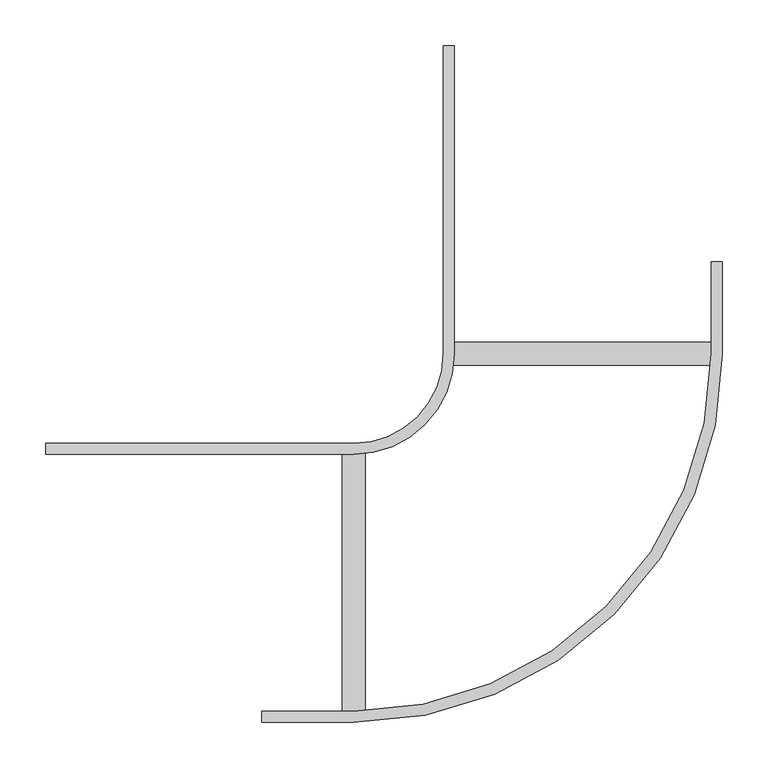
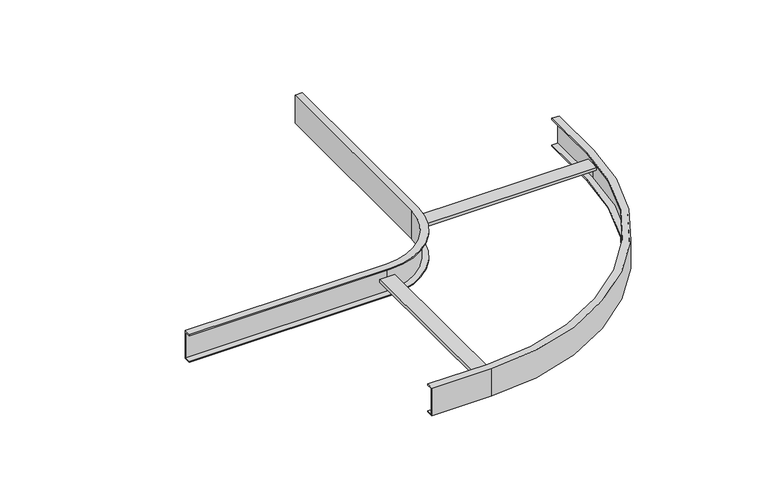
"""IFC4 building model written with IfcOpenShell, lengths in millimetres: cable carrier fitting geometry, BAKS_LD_CONN_Univarsal connector elbow_LLUS : LLUSP_H45."""

from ifc_helpers import new_model, si_unit, frame, origin, place, context, project, spatial, polyline, circle_curve, outline, extrude, source, transform, mapped, element, save
from ifc_brep_helpers import plane_surface, cylinder_surface, revolved_surface, advanced_brep


def cable_carrier_fitting_8d7dc52b(model_context):
    return source(origin(), model_context, "Body", "SolidModel", [
        extrude(outline(polyline([(-150.0, 237.5), (-150.0, 262.5), (150.0, 262.5), (150.0, 237.5), (-150.0, 237.5)])), frame((0.0, 0.0, -2.5), z_axis=(0.0, 0.0, 1.0), x_axis=(1.0, 0.0, 0.0)), (0.0, 0.0, 1.0), 5.0),
        extrude(outline(polyline([(-262.5, 150.0), (-237.5, 150.0), (-237.5, -150.0), (-262.5, -150.0), (-262.5, 150.0)])), frame((0.0, 0.0, -2.5), z_axis=(0.0, 0.0, 1.0), x_axis=(1.0, 0.0, 0.0)), (0.0, 0.0, 1.0), 5.0),
        advanced_brep(
        [(-140.0, 585.619449, 24.5), (-140.0, 585.619449, 22.5), (-150.0, 585.619449, 22.5), (-150.0, 585.619449, -22.5), (-140.0, 585.619449, -22.5), (-140.0, 585.619449, -24.5), (-152.0, 585.619449, -24.5), (-152.0, 585.619449, 24.5), (-140.0, 250.0, 24.5), (-140.0, 250.0, 22.5), (-250.0, 140.0, 22.5), (-585.619449, 140.0, 22.5), (-585.619449, 150.0, 22.5), (-250.0, 150.0, 22.5), (-150.0, 250.0, 22.5), (-150.0, 250.0, -22.5), (-250.0, 150.0, -22.5), (-585.619449, 150.0, -22.5), (-585.619449, 140.0, -22.5), (-250.0, 140.0, -22.5), (-140.0, 250.0, -22.5), (-140.0, 250.0, -24.5), (-250.0, 140.0, -24.5), (-585.619449, 140.0, -24.5), (-585.619449, 152.0, -24.5), (-250.0, 152.0, -24.5), (-152.0, 250.0, -24.5), (-152.0, 250.0, 24.5), (-250.0, 152.0, 24.5), (-585.619449, 152.0, 24.5), (-585.619449, 140.0, 24.5), (-250.0, 140.0, 24.5)],
        [
            (0, 1),
            (1, 2),
            (2, 3),
            (3, 4),
            (4, 5),
            (5, 6),
            (6, 7),
            (7, 0),
            (0, 8),
            (8, 9),
            (9, 1),
            (9, 10, circle_curve(frame((-250.0, 250.0, 22.5), z_axis=(0.0, 0.0, -1.0), x_axis=(1.0, 0.0, 0.0)), 110.0)),
            (10, 11),
            (11, 12),
            (12, 13),
            (13, 14, circle_curve(frame((-250.0, 250.0, 22.5), z_axis=(0.0, 0.0, 1.0), x_axis=(1.0, 0.0, 0.0)), 100.0)),
            (14, 2),
            (14, 15),
            (15, 3),
            (15, 16, circle_curve(frame((-250.0, 250.0, -22.5), z_axis=(0.0, 0.0, -1.0), x_axis=(1.0, 0.0, 0.0)), 100.0)),
            (16, 17),
            (17, 18),
            (18, 19),
            (19, 20, circle_curve(frame((-250.0, 250.0, -22.5), z_axis=(0.0, 0.0, 1.0), x_axis=(1.0, 0.0, 0.0)), 110.0)),
            (20, 4),
            (20, 21),
            (21, 5),
            (21, 22, circle_curve(frame((-250.0, 250.0, -24.5), z_axis=(0.0, 0.0, -1.0), x_axis=(1.0, 0.0, 0.0)), 110.0)),
            (22, 23),
            (23, 24),
            (24, 25),
            (25, 26, circle_curve(frame((-250.0, 250.0, -24.5), z_axis=(0.0, 0.0, 1.0), x_axis=(1.0, 0.0, 0.0)), 98.0)),
            (26, 6),
            (26, 27),
            (27, 7),
            (27, 28, circle_curve(frame((-250.0, 250.0, 24.5), z_axis=(0.0, 0.0, -1.0), x_axis=(1.0, 0.0, 0.0)), 98.0)),
            (28, 29),
            (29, 30),
            (30, 31),
            (31, 8, circle_curve(frame((-250.0, 250.0, 24.5), z_axis=(0.0, 0.0, 1.0), x_axis=(1.0, 0.0, 0.0)), 110.0)),
            (31, 10),
            (13, 16),
            (19, 22),
            (25, 28),
            (29, 24),
            (23, 18),
            (17, 12),
            (11, 30),
        ],
        [
            plane_surface(frame((-150.0, 585.619449, 0.0), z_axis=(0.0, 1.0, 0.0), x_axis=(0.0, 0.0, 1.0))),
            plane_surface(frame((-140.0, 585.619449, 24.5), z_axis=(1.0, 0.0, 0.0), x_axis=(0.0, -1.0, 0.0))),
            plane_surface(frame((-140.0, 585.619449, 22.5), z_axis=(0.0, 0.0, -1.0), x_axis=(0.0, -1.0, 0.0))),
            plane_surface(frame((-150.0, 585.619449, 22.5), z_axis=(1.0, 0.0, 0.0), x_axis=(0.0, -1.0, 0.0))),
            plane_surface(frame((-150.0, 585.619449, -22.5), z_axis=(0.0, 0.0, 1.0), x_axis=(0.0, -1.0, 0.0))),
            plane_surface(frame((-140.0, 585.619449, -22.5), z_axis=(1.0, 0.0, 0.0), x_axis=(0.0, -1.0, 0.0))),
            plane_surface(frame((-140.0, 585.619449, -24.5), z_axis=(0.0, 0.0, -1.0), x_axis=(0.0, -1.0, 0.0))),
            plane_surface(frame((-152.0, 585.619449, -24.5), z_axis=(-1.0, 0.0, 0.0), x_axis=(0.0, -1.0, 0.0))),
            plane_surface(frame((-152.0, 585.619449, 24.5), z_axis=(0.0, 0.0, 1.0), x_axis=(0.0, -1.0, 0.0))),
            cylinder_surface(frame((-250.0, 250.0, 0.0), z_axis=(0.0, 0.0, -1.0), x_axis=(1.0, 0.0, 0.0)), 110.0),
            cylinder_surface(frame((-250.0, 250.0, 0.0), z_axis=(0.0, 0.0, -1.0), x_axis=(1.0, 0.0, 0.0)), 100.0),
            revolved_surface(polyline([(-152.0, 250.0, -24.5), (-152.0, 250.0, 24.5)]), (-250.0, 250.0, 0.0), (0.0, 0.0, -1.0)),
            plane_surface(frame((-585.619449, 150.0, 0.0), z_axis=(-1.0, 0.0, 0.0), x_axis=(0.0, 0.0, 1.0))),
            plane_surface(frame((-250.0, 140.0, 24.5), z_axis=(0.0, -1.0, 0.0), x_axis=(-1.0, 0.0, 0.0))),
            plane_surface(frame((-250.0, 150.0, 22.5), z_axis=(0.0, -1.0, 0.0), x_axis=(-1.0, 0.0, 0.0))),
            plane_surface(frame((-250.0, 140.0, -22.5), z_axis=(0.0, -1.0, 0.0), x_axis=(-1.0, 0.0, 0.0))),
            plane_surface(frame((-250.0, 152.0, -24.5), z_axis=(0.0, 1.0, 0.0), x_axis=(-1.0, 0.0, 0.0))),
        ],
        [
            (0, [[1, 2, 3, 4, 5, 6, 7, 8]]),
            (1, [[-1, 9, 10, 11]]),
            (2, [[-2, -11, 12, 13, 14, 15, 16, 17]]),
            (3, [[-3, -17, 18, 19]]),
            (4, [[-4, -19, 20, 21, 22, 23, 24, 25]]),
            (5, [[-5, -25, 26, 27]]),
            (6, [[-6, -27, 28, 29, 30, 31, 32, 33]]),
            (7, [[-7, -33, 34, 35]]),
            (8, [[-8, -35, 36, 37, 38, 39, 40, -9]]),
            (9, [[-12, -10, -40, 41]]),
            (10, [[-20, -18, -16, 42]]),
            (9, [[-28, -26, -24, 43]]),
            (11, [[-36, -34, -32, 44]]),
            (12, [[-38, 45, -30, 46, -22, 47, -14, 48]]),
            (13, [[-41, -39, -48, -13]]),
            (14, [[-42, -15, -47, -21]]),
            (15, [[-43, -23, -46, -29]]),
            (16, [[-44, -31, -45, -37]]),
        ],
    ),
        advanced_brep(
        [(140.0, 350.0, -24.5), (140.0, 350.0, -22.5), (150.0, 350.0, -22.5), (150.0, 350.0, 22.5), (140.0, 350.0, 22.5), (140.0, 350.0, 24.5), (152.0, 350.0, 24.5), (152.0, 350.0, -24.5), (140.0, 250.0, -24.5), (140.0, 250.0, -22.5), (-250.0, -140.0, -22.5), (-350.0, -140.0, -22.5), (-350.0, -150.0, -22.5), (-250.0, -150.0, -22.5), (150.0, 250.0, -22.5), (150.0, 250.0, 22.5), (-250.0, -150.0, 22.5), (-350.0, -150.0, 22.5), (-350.0, -140.0, 22.5), (-250.0, -140.0, 22.5), (140.0, 250.0, 22.5), (140.0, 250.0, 24.5), (-250.0, -140.0, 24.5), (-350.0, -140.0, 24.5), (-350.0, -152.0, 24.5), (-250.0, -152.0, 24.5), (152.0, 250.0, 24.5), (152.0, 250.0, -24.5), (-250.0, -152.0, -24.5), (-350.0, -152.0, -24.5), (-350.0, -140.0, -24.5), (-250.0, -140.0, -24.5)],
        [
            (0, 1),
            (1, 2),
            (2, 3),
            (3, 4),
            (4, 5),
            (5, 6),
            (6, 7),
            (7, 0),
            (0, 8),
            (8, 9),
            (9, 1),
            (9, 10, circle_curve(frame((-250.0, 250.0, -22.5), z_axis=(0.0, 0.0, -1.0), x_axis=(1.0, 0.0, 0.0)), 390.0)),
            (10, 11),
            (11, 12),
            (12, 13),
            (13, 14, circle_curve(frame((-250.0, 250.0, -22.5), z_axis=(0.0, 0.0, 1.0), x_axis=(1.0, 0.0, 0.0)), 400.0)),
            (14, 2),
            (14, 15),
            (15, 3),
            (15, 16, circle_curve(frame((-250.0, 250.0, 22.5), z_axis=(0.0, 0.0, -1.0), x_axis=(1.0, 0.0, 0.0)), 400.0)),
            (16, 17),
            (17, 18),
            (18, 19),
            (19, 20, circle_curve(frame((-250.0, 250.0, 22.5), z_axis=(0.0, 0.0, 1.0), x_axis=(1.0, 0.0, 0.0)), 390.0)),
            (20, 4),
            (20, 21),
            (21, 5),
            (21, 22, circle_curve(frame((-250.0, 250.0, 24.5), z_axis=(0.0, 0.0, -1.0), x_axis=(1.0, 0.0, 0.0)), 390.0)),
            (22, 23),
            (23, 24),
            (24, 25),
            (25, 26, circle_curve(frame((-250.0, 250.0, 24.5), z_axis=(0.0, 0.0, 1.0), x_axis=(1.0, 0.0, 0.0)), 402.0)),
            (26, 6),
            (26, 27),
            (27, 7),
            (27, 28, circle_curve(frame((-250.0, 250.0, -24.5), z_axis=(0.0, 0.0, -1.0), x_axis=(1.0, 0.0, 0.0)), 402.0)),
            (28, 29),
            (29, 30),
            (30, 31),
            (31, 8, circle_curve(frame((-250.0, 250.0, -24.5), z_axis=(0.0, 0.0, 1.0), x_axis=(1.0, 0.0, 0.0)), 390.0)),
            (31, 10),
            (13, 16),
            (19, 22),
            (25, 28),
            (29, 24),
            (23, 18),
            (17, 12),
            (11, 30),
        ],
        [
            plane_surface(frame((150.0, 350.0, 0.0), z_axis=(0.0, 1.0, 0.0), x_axis=(0.0, 0.0, 1.0))),
            plane_surface(frame((140.0, 350.0, -24.5), z_axis=(-1.0, 0.0, 0.0), x_axis=(0.0, -1.0, 0.0))),
            plane_surface(frame((140.0, 350.0, -22.5), z_axis=(0.0, 0.0, 1.0), x_axis=(0.0, -1.0, 0.0))),
            plane_surface(frame((150.0, 350.0, -22.5), z_axis=(-1.0, 0.0, 0.0), x_axis=(0.0, -1.0, 0.0))),
            plane_surface(frame((150.0, 350.0, 22.5), z_axis=(0.0, 0.0, -1.0), x_axis=(0.0, -1.0, 0.0))),
            plane_surface(frame((140.0, 350.0, 22.5), z_axis=(-1.0, 0.0, 0.0), x_axis=(0.0, -1.0, 0.0))),
            plane_surface(frame((140.0, 350.0, 24.5), z_axis=(0.0, 0.0, 1.0), x_axis=(0.0, -1.0, 0.0))),
            plane_surface(frame((152.0, 350.0, 24.5), z_axis=(1.0, 0.0, 0.0), x_axis=(0.0, -1.0, 0.0))),
            plane_surface(frame((152.0, 350.0, -24.5), z_axis=(0.0, 0.0, -1.0), x_axis=(0.0, -1.0, 0.0))),
            revolved_surface(polyline([(140.0, 250.0, -24.5), (140.0, 250.0, -22.5)]), (-250.0, 250.0, 0.0), (0.0, 0.0, -1.0)),
            revolved_surface(polyline([(150.0, 250.0, -22.5), (150.0, 250.0, 22.5)]), (-250.0, 250.0, 0.0), (0.0, 0.0, -1.0)),
            revolved_surface(polyline([(140.0, 250.0, 22.5), (140.0, 250.0, 24.5)]), (-250.0, 250.0, 0.0), (0.0, 0.0, -1.0)),
            cylinder_surface(frame((-250.0, 250.0, 0.0), z_axis=(0.0, 0.0, -1.0), x_axis=(1.0, 0.0, 0.0)), 402.0),
            plane_surface(frame((-350.0, -150.0, 0.0), z_axis=(-1.0, 0.0, 0.0), x_axis=(0.0, 0.0, 1.0))),
            plane_surface(frame((-250.0, -140.0, -24.5), z_axis=(0.0, 1.0, 0.0), x_axis=(-1.0, 0.0, 0.0))),
            plane_surface(frame((-250.0, -150.0, -22.5), z_axis=(0.0, 1.0, 0.0), x_axis=(-1.0, 0.0, 0.0))),
            plane_surface(frame((-250.0, -140.0, 22.5), z_axis=(0.0, 1.0, 0.0), x_axis=(-1.0, 0.0, 0.0))),
            plane_surface(frame((-250.0, -152.0, 24.5), z_axis=(0.0, -1.0, 0.0), x_axis=(-1.0, 0.0, 0.0))),
        ],
        [
            (0, [[1, 2, 3, 4, 5, 6, 7, 8]]),
            (1, [[-1, 9, 10, 11]]),
            (2, [[-2, -11, 12, 13, 14, 15, 16, 17]]),
            (3, [[-3, -17, 18, 19]]),
            (4, [[-4, -19, 20, 21, 22, 23, 24, 25]]),
            (5, [[-5, -25, 26, 27]]),
            (6, [[-6, -27, 28, 29, 30, 31, 32, 33]]),
            (7, [[-7, -33, 34, 35]]),
            (8, [[-8, -35, 36, 37, 38, 39, 40, -9]]),
            (9, [[-12, -10, -40, 41]]),
            (10, [[-20, -18, -16, 42]]),
            (11, [[-28, -26, -24, 43]]),
            (12, [[-36, -34, -32, 44]]),
            (13, [[-38, 45, -30, 46, -22, 47, -14, 48]]),
            (14, [[-41, -39, -48, -13]]),
            (15, [[-42, -15, -47, -21]]),
            (16, [[-43, -23, -46, -29]]),
            (17, [[-44, -31, -45, -37]]),
        ],
    ),
    ])


if __name__ == "__main__":
    model = new_model("IFC4")
    model_context = context("Model", 3, world=origin())
    ifc_project = project(units=[si_unit("LENGTHUNIT", "METRE", prefix="MILLI")], contexts=[model_context])
    site = spatial("IfcSite", under=ifc_project)
    building = spatial("IfcBuilding", under=site)
    placement = place(None, origin())
    cable_carrier_fitting_shape = cable_carrier_fitting_8d7dc52b(model_context)
    element("IfcCableCarrierFitting", 1, ObjectType="BAKS_LD_CONN_Univarsal connector elbow_LLUS : LLUSP_H45", at=placement, inside=building, context=model_context, shape_type="MappedRepresentation", body=[
        mapped(cable_carrier_fitting_shape, transform((0.0, 0.0, 0.0), x_axis=(1.0, 0.0, 0.0), y_axis=(0.0, 1.0, 0.0), z_axis=(0.0, 0.0, 1.0))),
    ])
    save(model, "model.ifc")
